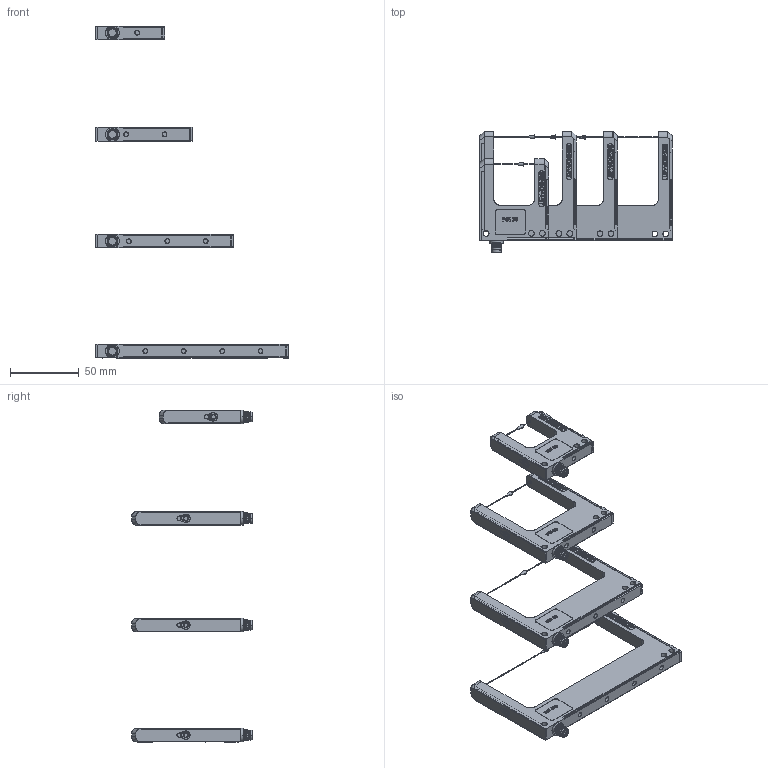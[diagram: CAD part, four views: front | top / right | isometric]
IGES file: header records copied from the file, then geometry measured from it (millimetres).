
Global section: file name: C:\Dokumente und Einstellungen\rste\Desktop\15300595_FGL.igs; native system: AutoCAD-17.2s (LMS Tech) (Microsoft Windows NT Version 5.1 (x86)); preprocessor: Autodesk IGES Translator Mechanical Desktop 2009 (Jun 25 2008) from Autodesk, Inc.; date: 20100401.103006; units: millimetre
Bounding box: 140 x 88.1 x 242 mm (x, y, z)
Surface area: 62119.1 mm2 (no closed solid volume)
Topology: 0 solids, 0 shells, 3138 faces, 33278 edges, 33278 vertices
Faces by surface type: bspline 3138
